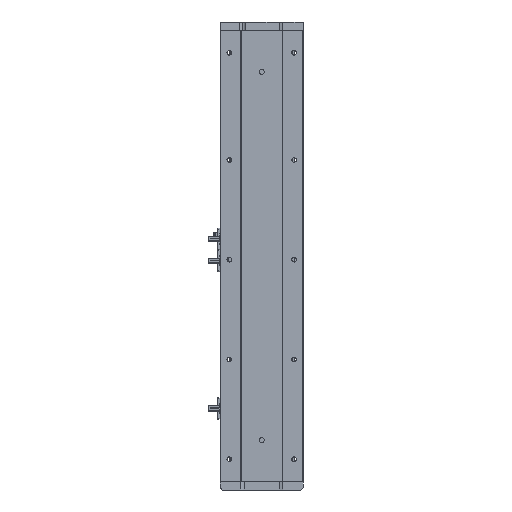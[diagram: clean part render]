
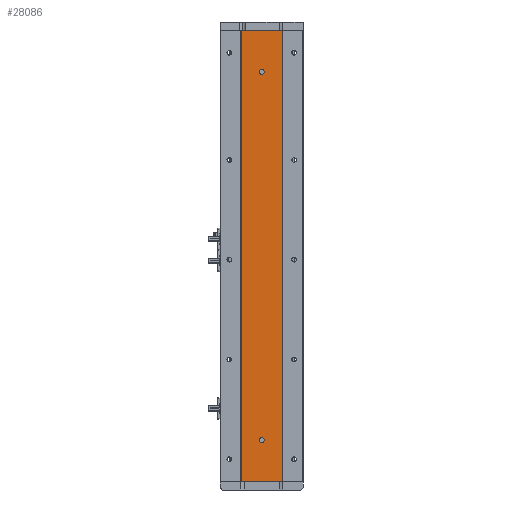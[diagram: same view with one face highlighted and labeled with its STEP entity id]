
A CAD part, left-side view. The second image highlights one B-rep face of the part: STEP entity #28086.
In plain terms, the highlighted planar face has unit normal (-1, 0, 0).
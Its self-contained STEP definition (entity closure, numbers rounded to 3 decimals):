
#418 = CIRCLE ( 'NONE', #32236, 3. ) ;
#743 = CARTESIAN_POINT ( 'NONE',  ( -18.926, 24.785, 0. ) ) ;
#2061 = AXIS2_PLACEMENT_3D ( 'NONE', #31184, #15473, #33764 ) ;
#3085 = EDGE_CURVE ( 'NONE', #11579, #23685, #28986, .T. ) ;
#3404 = EDGE_LOOP ( 'NONE', ( #15674, #6698 ) ) ;
#3831 = FACE_BOUND ( 'NONE', #6361, .T. ) ;
#4152 = CARTESIAN_POINT ( 'NONE',  ( -18.926, 0., 490. ) ) ;
#4368 = VERTEX_POINT ( 'NONE', #4152 ) ;
#4938 = CARTESIAN_POINT ( 'NONE',  ( -18.926, 24.785, 543. ) ) ;
#5338 = LINE ( 'NONE', #27254, #32495 ) ;
#5490 = DIRECTION ( 'NONE',  ( 0., -1., 0. ) ) ;
#5642 = CIRCLE ( 'NONE', #2061, 3. ) ;
#6154 = DIRECTION ( 'NONE',  ( 1., 0., 0. ) ) ;
#6299 = DIRECTION ( 'NONE',  ( -1., 0., 0. ) ) ;
#6361 = EDGE_LOOP ( 'NONE', ( #20934, #21700 ) ) ;
#6698 = ORIENTED_EDGE ( 'NONE', *, *, #10925, .F. ) ;
#6710 = CARTESIAN_POINT ( 'NONE',  ( -18.926, 0., 50. ) ) ;
#7544 = CARTESIAN_POINT ( 'NONE',  ( -18.926, 24.785, 543. ) ) ;
#7962 = LINE ( 'NONE', #7544, #21172 ) ;
#8805 = DIRECTION ( 'NONE',  ( 0., -1., 0. ) ) ;
#9390 = DIRECTION ( 'NONE',  ( 0., 0., 1. ) ) ;
#10534 = CIRCLE ( 'NONE', #23051, 3. ) ;
#10867 = FACE_OUTER_BOUND ( 'NONE', #11055, .T. ) ;
#10925 = EDGE_CURVE ( 'NONE', #4368, #18087, #16658, .T. ) ;
#11055 = EDGE_LOOP ( 'NONE', ( #17693, #13031, #31436, #11897 ) ) ;
#11579 = VERTEX_POINT ( 'NONE', #14388 ) ;
#11897 = ORIENTED_EDGE ( 'NONE', *, *, #16070, .T. ) ;
#13031 = ORIENTED_EDGE ( 'NONE', *, *, #3085, .F. ) ;
#13646 = EDGE_CURVE ( 'NONE', #23930, #30091, #10534, .T. ) ;
#13868 = AXIS2_PLACEMENT_3D ( 'NONE', #13958, #32330, #16619 ) ;
#13958 = CARTESIAN_POINT ( 'NONE',  ( -18.926, 0., 493. ) ) ;
#14253 = VERTEX_POINT ( 'NONE', #743 ) ;
#14363 = AXIS2_PLACEMENT_3D ( 'NONE', #21994, #6154, #24611 ) ;
#14388 = CARTESIAN_POINT ( 'NONE',  ( -18.926, -24.785, 543. ) ) ;
#14991 = CARTESIAN_POINT ( 'NONE',  ( -18.926, 0., 50. ) ) ;
#15473 = DIRECTION ( 'NONE',  ( -1., 0., 0. ) ) ;
#15674 = ORIENTED_EDGE ( 'NONE', *, *, #30408, .F. ) ;
#16042 = CARTESIAN_POINT ( 'NONE',  ( -18.926, 0., 496. ) ) ;
#16070 = EDGE_CURVE ( 'NONE', #23822, #14253, #7962, .T. ) ;
#16404 = CARTESIAN_POINT ( 'NONE',  ( -18.926, 0., 53. ) ) ;
#16619 = DIRECTION ( 'NONE',  ( 0., 0., 1. ) ) ;
#16658 = CIRCLE ( 'NONE', #13868, 3. ) ;
#16662 = VECTOR ( 'NONE', #19725, 1000. ) ;
#17693 = ORIENTED_EDGE ( 'NONE', *, *, #29759, .T. ) ;
#18087 = VERTEX_POINT ( 'NONE', #16042 ) ;
#18666 = EDGE_CURVE ( 'NONE', #23822, #11579, #29623, .T. ) ;
#19534 = CARTESIAN_POINT ( 'NONE',  ( -18.926, -24.785, 543. ) ) ;
#19725 = DIRECTION ( 'NONE',  ( 0., 0., -1. ) ) ;
#19857 = CARTESIAN_POINT ( 'NONE',  ( -18.926, -24.785, 0. ) ) ;
#20934 = ORIENTED_EDGE ( 'NONE', *, *, #22532, .F. ) ;
#21172 = VECTOR ( 'NONE', #23338, 1000. ) ;
#21700 = ORIENTED_EDGE ( 'NONE', *, *, #13646, .F. ) ;
#21994 = CARTESIAN_POINT ( 'NONE',  ( -18.926, 24.785, 543. ) ) ;
#22532 = EDGE_CURVE ( 'NONE', #30091, #23930, #418, .T. ) ;
#23051 = AXIS2_PLACEMENT_3D ( 'NONE', #6710, #25189, #9390 ) ;
#23338 = DIRECTION ( 'NONE',  ( 0., 0., -1. ) ) ;
#23685 = VERTEX_POINT ( 'NONE', #19857 ) ;
#23822 = VERTEX_POINT ( 'NONE', #4938 ) ;
#23930 = VERTEX_POINT ( 'NONE', #28996 ) ;
#23955 = CARTESIAN_POINT ( 'NONE',  ( -18.926, 24.785, 543. ) ) ;
#24492 = PLANE ( 'NONE',  #14363 ) ;
#24611 = DIRECTION ( 'NONE',  ( 0., 0., -1. ) ) ;
#24749 = DIRECTION ( 'NONE',  ( 0., 0., 1. ) ) ;
#25189 = DIRECTION ( 'NONE',  ( -1., 0., 0. ) ) ;
#27254 = CARTESIAN_POINT ( 'NONE',  ( -18.926, 24.785, 0. ) ) ;
#28086 = ADVANCED_FACE ( 'NONE', ( #31030, #3831, #10867 ), #24492, .F. ) ;
#28805 = VECTOR ( 'NONE', #5490, 1000. ) ;
#28986 = LINE ( 'NONE', #19534, #16662 ) ;
#28996 = CARTESIAN_POINT ( 'NONE',  ( -18.926, 0., 47. ) ) ;
#29623 = LINE ( 'NONE', #23955, #28805 ) ;
#29759 = EDGE_CURVE ( 'NONE', #14253, #23685, #5338, .T. ) ;
#30091 = VERTEX_POINT ( 'NONE', #16404 ) ;
#30408 = EDGE_CURVE ( 'NONE', #18087, #4368, #5642, .T. ) ;
#31030 = FACE_BOUND ( 'NONE', #3404, .T. ) ;
#31184 = CARTESIAN_POINT ( 'NONE',  ( -18.926, 0., 493. ) ) ;
#31436 = ORIENTED_EDGE ( 'NONE', *, *, #18666, .F. ) ;
#32236 = AXIS2_PLACEMENT_3D ( 'NONE', #14991, #6299, #24749 ) ;
#32330 = DIRECTION ( 'NONE',  ( -1., 0., 0. ) ) ;
#32495 = VECTOR ( 'NONE', #8805, 1000. ) ;
#33764 = DIRECTION ( 'NONE',  ( 0., 0., 1. ) ) ;
